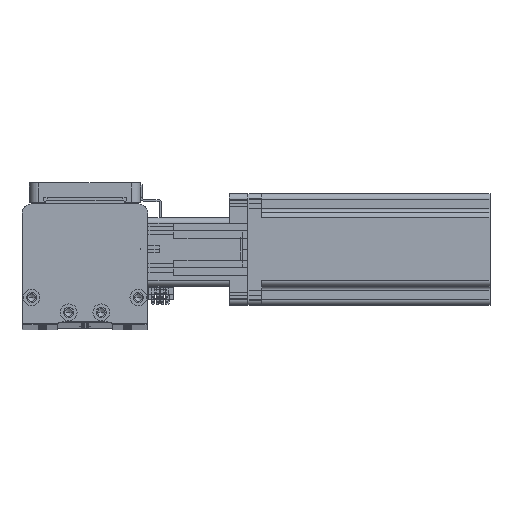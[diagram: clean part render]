
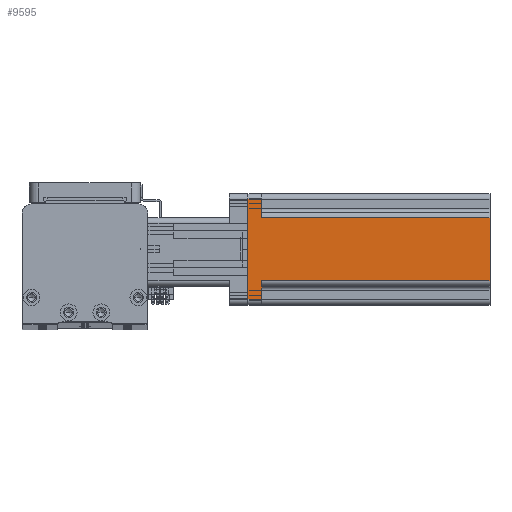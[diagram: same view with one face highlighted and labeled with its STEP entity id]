
A CAD part, top view. The second image highlights one B-rep face of the part: STEP entity #9595.
In plain terms, the highlighted planar face has unit normal (0, 0, 1) as drawn and (1, 0, 0) by its records, which use the part's own axes.
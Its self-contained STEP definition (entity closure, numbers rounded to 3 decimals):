
#1244 = VERTEX_POINT ( 'NONE', #39020 ) ;
#1392 = DIRECTION ( 'NONE',  ( 0., 1., 0. ) ) ;
#2587 = ORIENTED_EDGE ( 'NONE', *, *, #22055, .T. ) ;
#4877 = EDGE_LOOP ( 'NONE', ( #27292, #34483, #16313, #21767, #32503, #2587, #28623, #48844 ) ) ;
#6121 = CARTESIAN_POINT ( 'NONE',  ( 30., 27., 7.5 ) ) ;
#6147 = DIRECTION ( 'NONE',  ( 0., -1., 0. ) ) ;
#6968 = CARTESIAN_POINT ( 'NONE',  ( 30., -17., 7.5 ) ) ;
#7077 = CARTESIAN_POINT ( 'NONE',  ( 30., -30., 130.7 ) ) ;
#9006 = VERTEX_POINT ( 'NONE', #6968 ) ;
#9595 = ADVANCED_FACE ( 'NONE', ( #14995 ), #15611, .F. ) ;
#9945 = VERTEX_POINT ( 'NONE', #6121 ) ;
#10204 = DIRECTION ( 'NONE',  ( 0., 0., -1. ) ) ;
#11692 = DIRECTION ( 'NONE',  ( -1., 0., 0. ) ) ;
#12871 = CARTESIAN_POINT ( 'NONE',  ( 30., -27., 0. ) ) ;
#13306 = EDGE_CURVE ( 'NONE', #9006, #48904, #20334, .T. ) ;
#14990 = DIRECTION ( 'NONE',  ( 0., 1., 0. ) ) ;
#14995 = FACE_OUTER_BOUND ( 'NONE', #4877, .T. ) ;
#15024 = LINE ( 'NONE', #29078, #36750 ) ;
#15589 = VERTEX_POINT ( 'NONE', #30928 ) ;
#15611 = PLANE ( 'NONE',  #34462 ) ;
#15894 = LINE ( 'NONE', #35333, #25454 ) ;
#16313 = ORIENTED_EDGE ( 'NONE', *, *, #13306, .T. ) ;
#16450 = EDGE_CURVE ( 'NONE', #15589, #24155, #39521, .T. ) ;
#17518 = EDGE_CURVE ( 'NONE', #35767, #9006, #15024, .T. ) ;
#18703 = LINE ( 'NONE', #29969, #30836 ) ;
#19061 = VECTOR ( 'NONE', #6147, 1000. ) ;
#19894 = CARTESIAN_POINT ( 'NONE',  ( 30., 27., 130.7 ) ) ;
#20334 = LINE ( 'NONE', #39007, #19061 ) ;
#20832 = DIRECTION ( 'NONE',  ( 0., 0., 1. ) ) ;
#21767 = ORIENTED_EDGE ( 'NONE', *, *, #45170, .T. ) ;
#21953 = EDGE_CURVE ( 'NONE', #35767, #24155, #51155, .T. ) ;
#22055 = EDGE_CURVE ( 'NONE', #1244, #9945, #43463, .T. ) ;
#24155 = VERTEX_POINT ( 'NONE', #24797 ) ;
#24797 = CARTESIAN_POINT ( 'NONE',  ( 30., 17., 130.7 ) ) ;
#25454 = VECTOR ( 'NONE', #14990, 1000. ) ;
#25885 = CARTESIAN_POINT ( 'NONE',  ( 30., -27., 7.5 ) ) ;
#26818 = EDGE_CURVE ( 'NONE', #48803, #1244, #15894, .T. ) ;
#27292 = ORIENTED_EDGE ( 'NONE', *, *, #21953, .F. ) ;
#28623 = ORIENTED_EDGE ( 'NONE', *, *, #45742, .F. ) ;
#28800 = CARTESIAN_POINT ( 'NONE',  ( 30., -17., 130.7 ) ) ;
#29078 = CARTESIAN_POINT ( 'NONE',  ( 30., -17., 7.5 ) ) ;
#29969 = CARTESIAN_POINT ( 'NONE',  ( 30., 30., 7.5 ) ) ;
#30836 = VECTOR ( 'NONE', #1392, 1000. ) ;
#30928 = CARTESIAN_POINT ( 'NONE',  ( 30., 17., 7.5 ) ) ;
#32503 = ORIENTED_EDGE ( 'NONE', *, *, #26818, .T. ) ;
#32622 = VECTOR ( 'NONE', #33607, 1000. ) ;
#32836 = VECTOR ( 'NONE', #10204, 1000. ) ;
#33607 = DIRECTION ( 'NONE',  ( 0., 0., 1. ) ) ;
#34462 = AXIS2_PLACEMENT_3D ( 'NONE', #36155, #11692, #40258 ) ;
#34483 = ORIENTED_EDGE ( 'NONE', *, *, #17518, .T. ) ;
#34631 = CARTESIAN_POINT ( 'NONE',  ( 30., -27., 130.7 ) ) ;
#35333 = CARTESIAN_POINT ( 'NONE',  ( 30., -30., 0. ) ) ;
#35767 = VERTEX_POINT ( 'NONE', #28800 ) ;
#36155 = CARTESIAN_POINT ( 'NONE',  ( 30., -30., 130.7 ) ) ;
#36750 = VECTOR ( 'NONE', #49401, 1000. ) ;
#38226 = VECTOR ( 'NONE', #20832, 1000. ) ;
#39007 = CARTESIAN_POINT ( 'NONE',  ( 30., -30., 7.5 ) ) ;
#39020 = CARTESIAN_POINT ( 'NONE',  ( 30., 27., 0. ) ) ;
#39521 = LINE ( 'NONE', #45261, #38226 ) ;
#40258 = DIRECTION ( 'NONE',  ( 0., 0., 1. ) ) ;
#40307 = VECTOR ( 'NONE', #43812, 1000. ) ;
#43463 = LINE ( 'NONE', #19894, #32622 ) ;
#43673 = LINE ( 'NONE', #34631, #32836 ) ;
#43812 = DIRECTION ( 'NONE',  ( 0., 1., 0. ) ) ;
#45170 = EDGE_CURVE ( 'NONE', #48904, #48803, #43673, .T. ) ;
#45261 = CARTESIAN_POINT ( 'NONE',  ( 30., 17., 130.7 ) ) ;
#45742 = EDGE_CURVE ( 'NONE', #15589, #9945, #18703, .T. ) ;
#48803 = VERTEX_POINT ( 'NONE', #12871 ) ;
#48844 = ORIENTED_EDGE ( 'NONE', *, *, #16450, .T. ) ;
#48904 = VERTEX_POINT ( 'NONE', #25885 ) ;
#49401 = DIRECTION ( 'NONE',  ( 0., 0., -1. ) ) ;
#51155 = LINE ( 'NONE', #7077, #40307 ) ;
